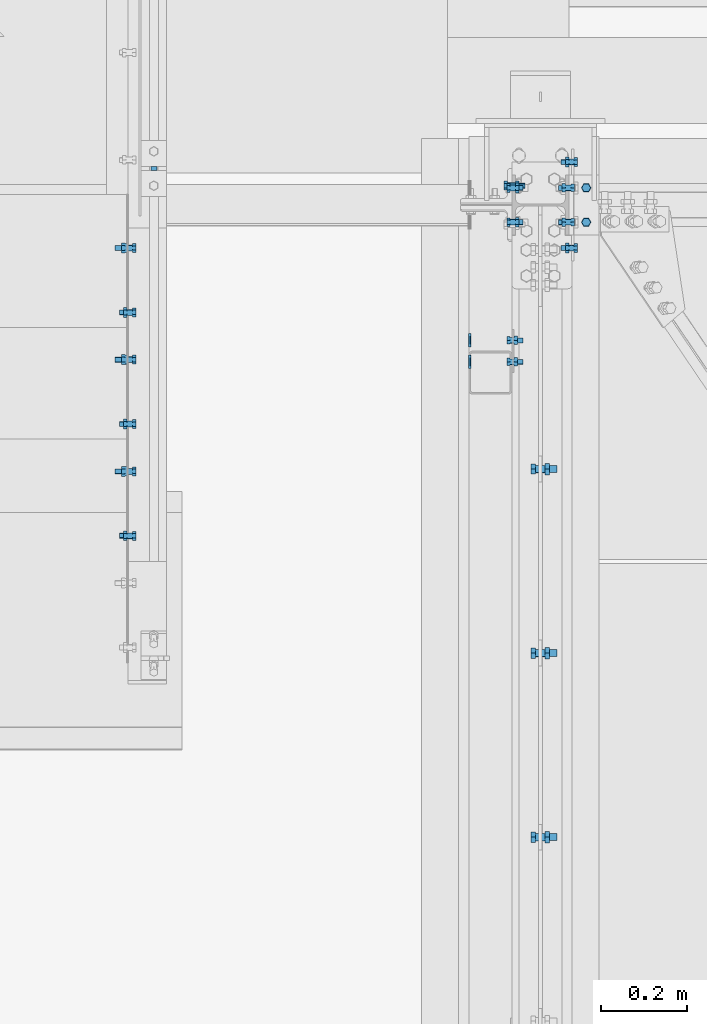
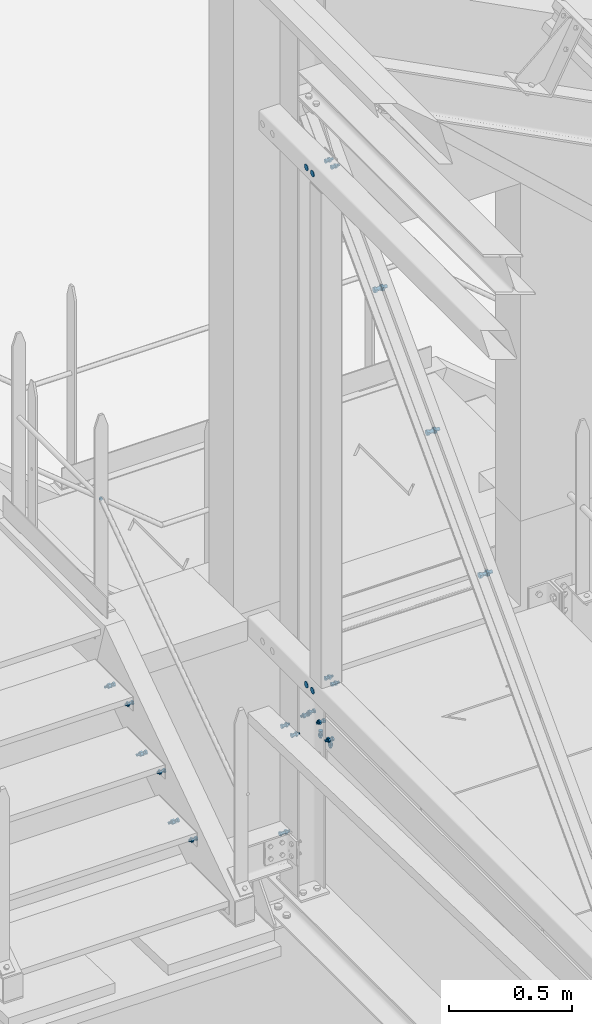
# One storey, part 288 of 362: 23 mechanical fasteners.
"""IFC2X3 building model written with IfcOpenShell, lengths in millimetres."""

from ifc_helpers import new_model, si_unit, frame, frame_2d, origin_with_axes, origin_2d_with_axis, place, context, subcontext, project, spatial, polyline, circle_curve, parameter, trimmed, segment, composite_curve, circle, outline, extrude, source, transform, mapped, material, type_object, element, save


model = new_model("IFC2X3")

# Units and contexts
model_context = context("Model", 3, precision=1e-05, world=origin_with_axes())
body_context = subcontext(model_context, "Body", "Model", "MODEL_VIEW")
ifc_project = project(units=[si_unit("LENGTHUNIT", "METRE", prefix="MILLI"), si_unit("AREAUNIT", "SQUARE_METRE"), si_unit("VOLUMEUNIT", "CUBIC_METRE"), si_unit("MASSUNIT", "GRAM", prefix="KILO"), si_unit("TIMEUNIT", "SECOND"), si_unit("PLANEANGLEUNIT", "RADIAN"), si_unit("SOLIDANGLEUNIT", "STERADIAN"), si_unit("THERMODYNAMICTEMPERATUREUNIT", "DEGREE_CELSIUS"), si_unit("LUMINOUSINTENSITYUNIT", "LUMEN")], contexts=[model_context])

# Site, building, storey
site_placement = place(None, origin_with_axes())
site = spatial("IfcSite", under=ifc_project, at=site_placement, Name="Undefined", CompositionType="ELEMENT")
building_placement = place(site_placement, origin_with_axes())
building = spatial("IfcBuilding", under=site, at=building_placement, Name="Undefined", CompositionType="ELEMENT")
storey_placement = place(building_placement, origin_with_axes())
storey = spatial("IfcBuildingStorey", under=building, at=storey_placement, Name="Undefined", CompositionType="ELEMENT", Elevation=0.0)

# Mechanical fasteners
ifc_material_1 = material(Name="6.8")
mechanical_fastener_type = type_object("IfcMechanicalFastenerType", Name="Bolt assembly")
shared_shape_1 = source(origin_with_axes(), body_context, "Body", "SweptSolid", [
    extrude(circle(Radius=7.0, at=origin_2d_with_axis()), frame((0.0, 6.26397177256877e-05, 0.0), z_axis=(0.0, 1.0, 0.0), x_axis=(1.0, 0.0, 0.0)), (0.0, 0.0, 1.0), 10.1),
])
mechanical_fastener_1_placement = place(storey_placement, frame((22569.9936634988, 15290.0038659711, 9438.8), z_axis=(0.0, 0.0, 1.0), x_axis=(-1.0, 0.0, 0.0)))
element("IfcMechanicalFastener", 1, at=mechanical_fastener_1_placement, inside=storey, type_object=mechanical_fastener_type, material=ifc_material_1, Name="Bolt assembly", NominalDiameter=12.0, NominalLength=10.0, context=body_context, shape_type="MappedRepresentation", body=[
    mapped(shared_shape_1, transform((0.0, 0.0, 0.0))),
])
ifc_material_2 = material(Name="8.8-SB-GALVA")
shared_shape_2 = source(origin_with_axes(), body_context, "Body", "SweptSolid", [
    extrude(circle(Radius=7.0, at=origin_2d_with_axis()), frame((0.0, -9.90049171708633, 0.0), z_axis=(0.0, 1.0, 0.0), x_axis=(1.0, 0.0, 0.0)), (0.0, 0.0, 1.0), 10.0),
    extrude(circle(Radius=7.0, at=origin_2d_with_axis()), frame((0.0, -0.100011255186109, 0.0), z_axis=(0.0, 1.0, 0.0), x_axis=(1.0, 0.0, 0.0)), (0.0, 0.0, 1.0), 3.1),
    extrude(outline(polyline([(10.39230484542, 0.0), (5.19615242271, 9.00000000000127), (-5.19615242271, 9.00000000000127), (-10.39230484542, 0.0), (-5.19615242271, -9.00000000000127), (5.19615242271, -9.00000000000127), (10.39230484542, 0.0)])), frame((0.0, -17.9204917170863, 0.0), z_axis=(0.0, 1.0, 0.0), x_axis=(1.0, 0.0, 0.0)), (0.0, 0.0, 1.0), 7.92),
    extrude(circle(Radius=6.0, at=origin_2d_with_axis()), frame((0.0, -10.0004917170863, 0.0), z_axis=(0.0, 1.0, 0.0), x_axis=(1.0, 0.0, 0.0)), (0.0, 0.0, 1.0), 30.0),
    extrude(outline(polyline([(11.5008173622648, 0.0), (5.7504086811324, 9.96000000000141), (-5.7504086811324, 9.96000000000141), (-11.5008173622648, 0.0), (-5.7504086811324, -9.96000000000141), (5.7504086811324, -9.96000000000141), (11.5008173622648, 0.0)])), frame((0.0, 3.00000067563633, 0.0), z_axis=(0.0, 1.0, 0.0), x_axis=(1.0, 0.0, 0.0)), (0.0, 0.0, 1.0), 7.92),
])
mechanical_fastener_2_placement = place(storey_placement, frame((22509.9947340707, 14949.9997910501, 8645.0), z_axis=(0.0, 0.0, 1.0), x_axis=(0.0, 1.0, 0.0)))
element("IfcMechanicalFastener", 2, at=mechanical_fastener_2_placement, inside=storey, type_object=mechanical_fastener_type, material=ifc_material_2, Name="Bolt assembly", NominalDiameter=12.0, NominalLength=30.0, context=body_context, shape_type="MappedRepresentation", body=[
    mapped(shared_shape_2, transform((0.0, 0.0, 0.0))),
])
shared_shape_3 = source(origin_with_axes(), body_context, "Body", "SweptSolid", [
    extrude(circle(Radius=7.0, at=origin_2d_with_axis()), frame((0.0, -9.89994875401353, 0.0), z_axis=(0.0, 1.0, 0.0), x_axis=(1.0, 0.0, 0.0)), (0.0, 0.0, 1.0), 10.0),
    extrude(circle(Radius=7.0, at=origin_2d_with_axis()), frame((0.0, -0.100011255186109, 0.0), z_axis=(0.0, 1.0, 0.0), x_axis=(1.0, 0.0, 0.0)), (0.0, 0.0, 1.0), 3.1),
    extrude(outline(polyline([(10.39230484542, 0.0), (5.19615242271, 9.00000000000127), (-5.19615242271, 9.00000000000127), (-10.39230484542, 0.0), (-5.19615242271, -9.00000000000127), (5.19615242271, -9.00000000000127), (10.39230484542, 0.0)])), frame((0.0, -17.9199487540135, 0.0), z_axis=(0.0, 1.0, 0.0), x_axis=(1.0, 0.0, 0.0)), (0.0, 0.0, 1.0), 7.92),
    extrude(circle(Radius=6.0, at=origin_2d_with_axis()), frame((0.0, -9.99994875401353, 0.0), z_axis=(0.0, 1.0, 0.0), x_axis=(1.0, 0.0, 0.0)), (0.0, 0.0, 1.0), 30.0),
    extrude(outline(polyline([(11.5008173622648, 0.0), (5.7504086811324, 9.96000000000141), (-5.7504086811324, 9.96000000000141), (-11.5008173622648, 0.0), (-5.7504086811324, -9.96000000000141), (5.7504086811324, -9.96000000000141), (11.5008173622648, 0.0)])), frame((0.0, 3.00000067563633, 0.0), z_axis=(0.0, 1.0, 0.0), x_axis=(1.0, 0.0, 0.0)), (0.0, 0.0, 1.0), 7.92),
])
mechanical_fastener_3_placement = place(storey_placement, frame((22509.9947340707, 14689.9997910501, 8465.00000004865), z_axis=(0.0, 0.0, 1.0), x_axis=(0.0, 1.0, 0.0)))
element("IfcMechanicalFastener", 3, at=mechanical_fastener_3_placement, inside=storey, type_object=mechanical_fastener_type, material=ifc_material_2, Name="Bolt assembly", NominalDiameter=12.0, NominalLength=30.0, context=body_context, shape_type="MappedRepresentation", body=[
    mapped(shared_shape_3, transform((0.0, 0.0, 0.0))),
])
shared_shape_4 = source(origin_with_axes(), body_context, "Body", "SweptSolid", [
    extrude(circle(Radius=7.0, at=origin_2d_with_axis()), frame((0.0, -9.89940579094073, 0.0), z_axis=(0.0, 1.0, 0.0), x_axis=(1.0, 0.0, 0.0)), (0.0, 0.0, 1.0), 10.0),
    extrude(circle(Radius=7.0, at=origin_2d_with_axis()), frame((0.0, -0.100011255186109, 0.0), z_axis=(0.0, 1.0, 0.0), x_axis=(1.0, 0.0, 0.0)), (0.0, 0.0, 1.0), 3.1),
    extrude(outline(polyline([(10.39230484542, 0.0), (5.19615242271, 9.00000000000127), (-5.19615242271, 9.00000000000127), (-10.39230484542, 0.0), (-5.19615242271, -9.00000000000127), (5.19615242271, -9.00000000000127), (10.39230484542, 0.0)])), frame((0.0, -17.9194057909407, 0.0), z_axis=(0.0, 1.0, 0.0), x_axis=(1.0, 0.0, 0.0)), (0.0, 0.0, 1.0), 7.92),
    extrude(circle(Radius=6.0, at=origin_2d_with_axis()), frame((0.0, -9.99940579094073, 0.0), z_axis=(0.0, 1.0, 0.0), x_axis=(1.0, 0.0, 0.0)), (0.0, 0.0, 1.0), 30.0),
    extrude(outline(polyline([(11.5008173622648, 0.0), (5.7504086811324, 9.96000000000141), (-5.7504086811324, 9.96000000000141), (-11.5008173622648, 0.0), (-5.7504086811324, -9.96000000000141), (5.7504086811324, -9.96000000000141), (11.5008173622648, 0.0)])), frame((0.0, 3.00000067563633, 0.0), z_axis=(0.0, 1.0, 0.0), x_axis=(1.0, 0.0, 0.0)), (0.0, 0.0, 1.0), 7.92),
])
mechanical_fastener_4_placement = place(storey_placement, frame((22509.9947340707, 14429.9997910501, 8285.00000007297), z_axis=(0.0, 0.0, 1.0), x_axis=(0.0, 1.0, 0.0)))
element("IfcMechanicalFastener", 4, at=mechanical_fastener_4_placement, inside=storey, type_object=mechanical_fastener_type, material=ifc_material_2, Name="Bolt assembly", NominalDiameter=12.0, NominalLength=30.0, context=body_context, shape_type="MappedRepresentation", body=[
    mapped(shared_shape_4, transform((0.0, 0.0, 0.0))),
])
shared_shape_5 = source(origin_with_axes(), body_context, "Body", "SweptSolid", [
    extrude(circle(Radius=7.0, at=origin_2d_with_axis()), frame((0.0, -9.90049171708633, 0.0), z_axis=(0.0, 1.0, 0.0), x_axis=(1.0, 0.0, 0.0)), (0.0, 0.0, 1.0), 10.0),
    extrude(outline(composite_curve([segment(polyline([(-7.0, 7.0), (7.0, 7.0)]), True, "CONTINUOUS"), segment(trimmed(circle_curve(frame_2d((7.0, 0.0), x_axis=(0.0, 1.0)), 7.0), [parameter(0.0)], [parameter(3.14159265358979)], False, "PARAMETER"), True, "CONTINUOUS"), segment(polyline([(7.0, -7.0), (-7.0, -7.0)]), True, "CONTINUOUS"), segment(trimmed(circle_curve(frame_2d((-7.0, 0.0), x_axis=(0.0, -1.0)), 7.0), [parameter(0.0)], [parameter(3.14159265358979)], False, "PARAMETER"), True, "DISCONTINUOUS")], self_intersect=False)), frame((0.0, -0.100011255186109, 0.0), z_axis=(0.0, 1.0, 0.0), x_axis=(1.0, 0.0, 0.0)), (0.0, 0.0, 1.0), 3.1),
    extrude(outline(polyline([(10.39230484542, 0.0), (5.19615242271, 9.00000000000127), (-5.19615242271, 9.00000000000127), (-10.39230484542, 0.0), (-5.19615242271, -9.00000000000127), (5.19615242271, -9.00000000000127), (10.39230484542, 0.0)])), frame((0.0, -17.9204917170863, 0.0), z_axis=(0.0, 1.0, 0.0), x_axis=(1.0, 0.0, 0.0)), (0.0, 0.0, 1.0), 7.92),
    extrude(circle(Radius=6.0, at=origin_2d_with_axis()), frame((0.0, -10.0004917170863, 0.0), z_axis=(0.0, 1.0, 0.0), x_axis=(1.0, 0.0, 0.0)), (0.0, 0.0, 1.0), 40.0),
    extrude(circle(Radius=10.8, at=origin_2d_with_axis()), frame((0.0, 3.00000067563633, 0.0), z_axis=(0.0, 1.0, 0.0), x_axis=(1.0, 0.0, 0.0)), (0.0, 0.0, 1.0), 3.96),
    extrude(outline(polyline([(11.5008173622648, 0.0), (5.7504086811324, 9.96000000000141), (-5.7504086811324, 9.96000000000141), (-11.5008173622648, 0.0), (-5.7504086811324, -9.96000000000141), (5.7504086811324, -9.96000000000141), (11.5008173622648, 0.0)])), frame((0.0, 6.96, 0.0), z_axis=(0.0, 1.0, 0.0), x_axis=(1.0, 0.0, 0.0)), (0.0, 0.0, 1.0), 7.92),
])
mechanical_fastener_5_placement = place(storey_placement, frame((22509.9947340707, 15099.9997910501, 8645.0), z_axis=(0.0, 0.0, 1.0), x_axis=(0.0, 1.0, 0.0)))
element("IfcMechanicalFastener", 5, at=mechanical_fastener_5_placement, inside=storey, type_object=mechanical_fastener_type, material=ifc_material_2, Name="Bolt assembly", NominalDiameter=12.0, NominalLength=40.0, context=body_context, shape_type="MappedRepresentation", body=[
    mapped(shared_shape_5, transform((0.0, 0.0, 0.0))),
])
shared_shape_6 = source(origin_with_axes(), body_context, "Body", "SweptSolid", [
    extrude(circle(Radius=7.0, at=origin_2d_with_axis()), frame((0.0, -9.9, 0.0), z_axis=(0.0, 1.0, 0.0), x_axis=(1.0, 0.0, 0.0)), (0.0, 0.0, 1.0), 10.0),
    extrude(outline(composite_curve([segment(polyline([(-7.0, 7.0), (7.0, 7.0)]), True, "CONTINUOUS"), segment(trimmed(circle_curve(frame_2d((7.0, 0.0), x_axis=(0.0, 1.0)), 7.0), [parameter(0.0)], [parameter(3.14159265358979)], False, "PARAMETER"), True, "CONTINUOUS"), segment(polyline([(7.0, -7.0), (-7.0, -7.0)]), True, "CONTINUOUS"), segment(trimmed(circle_curve(frame_2d((-7.0, 0.0), x_axis=(0.0, -1.0)), 7.0), [parameter(0.0)], [parameter(3.14159265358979)], False, "PARAMETER"), True, "DISCONTINUOUS")], self_intersect=False)), frame((0.0, -0.100011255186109, 0.0), z_axis=(0.0, 1.0, 0.0), x_axis=(1.0, 0.0, 0.0)), (0.0, 0.0, 1.0), 3.1),
    extrude(outline(polyline([(10.39230484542, 0.0), (5.19615242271, 9.00000000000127), (-5.19615242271, 9.00000000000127), (-10.39230484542, 0.0), (-5.19615242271, -9.00000000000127), (5.19615242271, -9.00000000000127), (10.39230484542, 0.0)])), frame((0.0, -17.92, 0.0), z_axis=(0.0, 1.0, 0.0), x_axis=(1.0, 0.0, 0.0)), (0.0, 0.0, 1.0), 7.92),
    extrude(circle(Radius=6.0, at=origin_2d_with_axis()), frame((0.0, -10.0000010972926, 0.0), z_axis=(0.0, 1.0, 0.0), x_axis=(1.0, 0.0, 0.0)), (0.0, 0.0, 1.0), 40.0),
    extrude(circle(Radius=10.8, at=origin_2d_with_axis()), frame((0.0, 3.00000067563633, 0.0), z_axis=(0.0, 1.0, 0.0), x_axis=(1.0, 0.0, 0.0)), (0.0, 0.0, 1.0), 3.96),
    extrude(outline(polyline([(11.5008173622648, 0.0), (5.7504086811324, 9.96000000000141), (-5.7504086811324, 9.96000000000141), (-11.5008173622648, 0.0), (-5.7504086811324, -9.96000000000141), (5.7504086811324, -9.96000000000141), (11.5008173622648, 0.0)])), frame((0.0, 6.96, 0.0), z_axis=(0.0, 1.0, 0.0), x_axis=(1.0, 0.0, 0.0)), (0.0, 0.0, 1.0), 7.92),
])
mechanical_fastener_6_placement = place(storey_placement, frame((22509.9947340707, 14839.9997910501, 8465.00000004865), z_axis=(0.0, 0.0, 1.0), x_axis=(0.0, 1.0, 0.0)))
element("IfcMechanicalFastener", 6, at=mechanical_fastener_6_placement, inside=storey, type_object=mechanical_fastener_type, material=ifc_material_2, Name="Bolt assembly", NominalDiameter=12.0, NominalLength=40.0, context=body_context, shape_type="MappedRepresentation", body=[
    mapped(shared_shape_6, transform((0.0, 0.0, 0.0))),
])
shared_shape_7 = source(origin_with_axes(), body_context, "Body", "SweptSolid", [
    extrude(circle(Radius=7.0, at=origin_2d_with_axis()), frame((0.0, -9.89940579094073, 0.0), z_axis=(0.0, 1.0, 0.0), x_axis=(1.0, 0.0, 0.0)), (0.0, 0.0, 1.0), 10.0),
    extrude(outline(composite_curve([segment(polyline([(-7.0, 7.0), (7.0, 7.0)]), True, "CONTINUOUS"), segment(trimmed(circle_curve(frame_2d((7.0, 0.0), x_axis=(0.0, 1.0)), 7.0), [parameter(0.0)], [parameter(3.14159265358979)], False, "PARAMETER"), True, "CONTINUOUS"), segment(polyline([(7.0, -7.0), (-7.0, -7.0)]), True, "CONTINUOUS"), segment(trimmed(circle_curve(frame_2d((-7.0, 0.0), x_axis=(0.0, -1.0)), 7.0), [parameter(0.0)], [parameter(3.14159265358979)], False, "PARAMETER"), True, "DISCONTINUOUS")], self_intersect=False)), frame((0.0, -0.100011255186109, 0.0), z_axis=(0.0, 1.0, 0.0), x_axis=(1.0, 0.0, 0.0)), (0.0, 0.0, 1.0), 3.1),
    extrude(outline(polyline([(10.39230484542, 0.0), (5.19615242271, 9.00000000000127), (-5.19615242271, 9.00000000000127), (-10.39230484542, 0.0), (-5.19615242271, -9.00000000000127), (5.19615242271, -9.00000000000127), (10.39230484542, 0.0)])), frame((0.0, -17.9194057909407, 0.0), z_axis=(0.0, 1.0, 0.0), x_axis=(1.0, 0.0, 0.0)), (0.0, 0.0, 1.0), 7.92),
    extrude(circle(Radius=6.0, at=origin_2d_with_axis()), frame((0.0, -9.99940579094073, 0.0), z_axis=(0.0, 1.0, 0.0), x_axis=(1.0, 0.0, 0.0)), (0.0, 0.0, 1.0), 40.0),
    extrude(circle(Radius=10.8, at=origin_2d_with_axis()), frame((0.0, 3.00000067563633, 0.0), z_axis=(0.0, 1.0, 0.0), x_axis=(1.0, 0.0, 0.0)), (0.0, 0.0, 1.0), 3.96),
    extrude(outline(polyline([(11.5008173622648, 0.0), (5.7504086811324, 9.96000000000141), (-5.7504086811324, 9.96000000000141), (-11.5008173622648, 0.0), (-5.7504086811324, -9.96000000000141), (5.7504086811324, -9.96000000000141), (11.5008173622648, 0.0)])), frame((0.0, 6.96, 0.0), z_axis=(0.0, 1.0, 0.0), x_axis=(1.0, 0.0, 0.0)), (0.0, 0.0, 1.0), 7.92),
])
mechanical_fastener_7_placement = place(storey_placement, frame((22509.9947340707, 14579.9997910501, 8285.00000007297), z_axis=(0.0, 0.0, 1.0), x_axis=(0.0, 1.0, 0.0)))
element("IfcMechanicalFastener", 7, at=mechanical_fastener_7_placement, inside=storey, type_object=mechanical_fastener_type, material=ifc_material_2, Name="Bolt assembly", NominalDiameter=12.0, NominalLength=40.0, context=body_context, shape_type="MappedRepresentation", body=[
    mapped(shared_shape_7, transform((0.0, 0.0, 0.0))),
])
shared_shape_8 = source(origin_with_axes(), body_context, "Body", "SweptSolid", [
    extrude(circle(Radius=15.0, at=origin_2d_with_axis()), frame((0.0, 0.0, 0.0), z_axis=(0.0, 1.0, 0.0), x_axis=(1.0, 0.0, 0.0)), (0.0, 0.0, 1.0), 4.1),
])
mechanical_fastener_8_placement = place(storey_placement, frame((23303.5000012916, 14859.9999987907, 11070.0), z_axis=(0.0, -1.0, 0.0), x_axis=(0.0, 0.0, -1.0)))
element("IfcMechanicalFastener", 8, at=mechanical_fastener_8_placement, inside=storey, type_object=mechanical_fastener_type, material=ifc_material_1, Name="Bolt assembly", NominalDiameter=30.0, NominalLength=4.0, context=body_context, shape_type="MappedRepresentation", body=[
    mapped(shared_shape_8, transform((0.0, 0.0, -25.0))),
    mapped(shared_shape_8, transform((0.0, 0.0, 25.0))),
])
ifc_material_3 = material(Name="8.8-SB-ZINGUE")
shared_shape_9 = source(origin_with_axes(), body_context, "Body", "SweptSolid", [
    extrude(circle(Radius=7.0, at=origin_2d_with_axis()), frame((0.0, -3.89999843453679, 0.0), z_axis=(0.0, 1.0, 0.0), x_axis=(1.0, 0.0, 0.0)), (0.0, 0.0, 1.0), 4.0),
    extrude(circle(Radius=7.0, at=origin_2d_with_axis()), frame((0.0, -0.100011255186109, 0.0), z_axis=(0.0, 1.0, 0.0), x_axis=(1.0, 0.0, 0.0)), (0.0, 0.0, 1.0), 5.1),
    extrude(outline(polyline([(10.39230484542, 0.0), (5.19615242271, 9.00000000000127), (-5.19615242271, 9.00000000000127), (-10.39230484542, 0.0), (-5.19615242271, -9.00000000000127), (5.19615242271, -9.00000000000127), (10.39230484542, 0.0)])), frame((0.0, -11.9199984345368, 0.0), z_axis=(0.0, 1.0, 0.0), x_axis=(1.0, 0.0, 0.0)), (0.0, 0.0, 1.0), 7.92),
    extrude(circle(Radius=6.0, at=origin_2d_with_axis()), frame((0.0, -3.99999923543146, 0.0), z_axis=(0.0, 1.0, 0.0), x_axis=(1.0, 0.0, 0.0)), (0.0, 0.0, 1.0), 30.0),
    extrude(outline(polyline([(11.5008173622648, 0.0), (5.7504086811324, 9.96000000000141), (-5.7504086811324, 9.96000000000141), (-11.5008173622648, 0.0), (-5.7504086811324, -9.96000000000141), (5.7504086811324, -9.96000000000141), (11.5008173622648, 0.0)])), frame((0.0, 5.0, 0.0), z_axis=(0.0, 1.0, 0.0), x_axis=(1.0, 0.0, 0.0)), (0.0, 0.0, 1.0), 7.92),
])
mechanical_fastener_9_placement = place(storey_placement, frame((23403.5000012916, 14859.9999987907, 11070.0), z_axis=(0.0, -1.0, 0.0), x_axis=(0.0, 0.0, -1.0)))
element("IfcMechanicalFastener", 9, at=mechanical_fastener_9_placement, inside=storey, type_object=mechanical_fastener_type, material=ifc_material_3, Name="Bolt assembly", NominalDiameter=12.0, NominalLength=30.0, context=body_context, shape_type="MappedRepresentation", body=[
    mapped(shared_shape_9, transform((0.0, 0.0, -25.0))),
    mapped(shared_shape_9, transform((0.0, 0.0, 25.0))),
])
shared_shape_10 = source(origin_with_axes(), body_context, "Body", "SweptSolid", [
    extrude(circle(Radius=9.0, at=origin_2d_with_axis()), frame((0.0, -10.9000000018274, 0.0), z_axis=(0.0, 1.0, 0.0), x_axis=(1.0, 0.0, 0.0)), (0.0, 0.0, 1.0), 6.0),
    extrude(circle(Radius=9.0, at=origin_2d_with_axis()), frame((0.0, 4.9000000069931, 0.0), z_axis=(0.0, 1.0, 0.0), x_axis=(1.0, 0.0, 0.0)), (0.0, 0.0, 1.0), 6.1),
    extrude(circle(Radius=9.0, at=origin_2d_with_axis()), frame((0.0, -3.99999923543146, 0.0), z_axis=(0.0, 1.0, 0.0), x_axis=(1.0, 0.0, 0.0)), (0.0, 0.0, 1.0), 8.0),
    extrude(outline(polyline([(13.85640646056, 0.0), (6.92820323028, 12.0000000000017), (-6.92820323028, 12.0000000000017), (-13.85640646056, 0.0), (-6.92820323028, -12.0000000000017), (6.92820323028, -12.0000000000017), (13.85640646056, 0.0)])), frame((0.0, -21.5600000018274, 0.0), z_axis=(0.0, 1.0, 0.0), x_axis=(1.0, 0.0, 0.0)), (0.0, 0.0, 1.0), 10.56),
    extrude(circle(Radius=8.0, at=origin_2d_with_axis()), frame((0.0, -11.0000000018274, 0.0), z_axis=(0.0, 1.0, 0.0), x_axis=(1.0, 0.0, 0.0)), (0.0, 0.0, 1.0), 50.0),
    extrude(outline(polyline([(15.3344231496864, 0.0), (7.6672115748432, 13.2800000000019), (-7.6672115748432, 13.2800000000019), (-15.3344231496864, 0.0), (-7.6672115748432, -13.2800000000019), (7.6672115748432, -13.2800000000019), (15.3344231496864, 0.0)])), frame((0.0, 11.0000000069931, 0.0), z_axis=(0.0, 1.0, 0.0), x_axis=(1.0, 0.0, 0.0)), (0.0, 0.0, 1.0), 10.56),
])
for number, where, z_axis, x_axis, name in (
    (10, (23470.0, 14585.2713896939, 10591.1820449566), (0.0, 1.0, 0.0), (0.0, 0.0, 1.0), "Bolt assembly"),
    (11, (23470.0, 14156.8475934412, 10141.7880296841), (0.0, 1.0, 0.0), (0.0, 0.0, 1.0), "Bolt assembly"),
    (12, (23470.0, 13728.4237971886, 9692.39401441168), (0.0, 1.0, 0.0), (0.0, 0.0, 1.0), "Bolt assembly"),
):
    element("IfcMechanicalFastener", number, at=place(storey_placement, frame(where, z_axis=z_axis, x_axis=x_axis)), inside=storey, type_object=mechanical_fastener_type, material=ifc_material_3, Name=name, NominalDiameter=16.0, NominalLength=50.0, context=body_context, shape_type="MappedRepresentation", body=[
        mapped(shared_shape_10, transform((0.0, 0.0, 0.0))),
    ])
shared_shape_11 = source(origin_with_axes(), body_context, "Body", "SweptSolid", [
    extrude(circle(Radius=7.0, at=origin_2d_with_axis()), frame((0.0, -4.90000000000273, 0.0), z_axis=(0.0, 1.0, 0.0), x_axis=(1.0, 0.0, 0.0)), (0.0, 0.0, 1.0), 5.0),
    extrude(circle(Radius=7.0, at=origin_2d_with_axis()), frame((0.0, -0.100011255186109, 0.0), z_axis=(0.0, 1.0, 0.0), x_axis=(1.0, 0.0, 0.0)), (0.0, 0.0, 1.0), 7.1),
    extrude(outline(polyline([(10.39230484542, 0.0), (5.19615242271, 9.00000000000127), (-5.19615242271, 9.00000000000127), (-10.39230484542, 0.0), (-5.19615242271, -9.00000000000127), (5.19615242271, -9.00000000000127), (10.39230484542, 0.0)])), frame((0.0, -12.9200004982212, 0.0), z_axis=(0.0, 1.0, 0.0), x_axis=(1.0, 0.0, 0.0)), (0.0, 0.0, 1.0), 7.92),
    extrude(circle(Radius=6.0, at=origin_2d_with_axis()), frame((0.0, -5.00000000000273, 0.0), z_axis=(0.0, 1.0, 0.0), x_axis=(1.0, 0.0, 0.0)), (0.0, 0.0, 1.0), 30.0),
    extrude(outline(polyline([(11.5008173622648, 0.0), (5.7504086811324, 9.96000000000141), (-5.7504086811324, 9.96000000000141), (-11.5008173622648, 0.0), (-5.7504086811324, -9.96000000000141), (5.7504086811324, -9.96000000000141), (11.5008173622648, 0.0)])), frame((0.0, 7.0, 0.0), z_axis=(0.0, 1.0, 0.0), x_axis=(1.0, 0.0, 0.0)), (0.0, 0.0, 1.0), 7.92),
])
for number, where, z_axis, x_axis, name in (
    (13, (23576.49994422, 15240.0000000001, 7949.99999999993), (0.0, -1.0, 0.0), (-1.0, 0.0, 0.0), "Bolt assembly"),
    (14, (23576.49994422, 15160.0, 7949.99999999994), (0.0, -1.0, 0.0), (-1.0, 0.0, 0.0), "Bolt assembly"),
):
    element("IfcMechanicalFastener", number, at=place(storey_placement, frame(where, z_axis=z_axis, x_axis=x_axis)), inside=storey, type_object=mechanical_fastener_type, material=ifc_material_3, Name=name, NominalDiameter=12.0, NominalLength=30.0, context=body_context, shape_type="MappedRepresentation", body=[
        mapped(shared_shape_11, transform((0.0, 0.0, 0.0))),
    ])
shared_shape_12 = source(origin_with_axes(), body_context, "Body", "SweptSolid", [
    extrude(circle(Radius=7.0, at=origin_2d_with_axis()), frame((0.0, -0.108038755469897, 0.0), z_axis=(0.0, 1.0, 0.0), x_axis=(1.0, 0.0, 0.0)), (0.0, 0.0, 1.0), 5.1),
    extrude(circle(Radius=7.0, at=origin_2d_with_axis()), frame((0.0, -6.4, 0.0), z_axis=(0.0, 1.0, 0.0), x_axis=(1.0, 0.0, 0.0)), (0.0, 0.0, 1.0), 6.0),
    extrude(outline(polyline([(10.39230484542, 0.0), (5.19615242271, 9.00000000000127), (-5.19615242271, 9.00000000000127), (-10.39230484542, 0.0), (-5.19615242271, -9.00000000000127), (5.19615242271, -9.00000000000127), (10.39230484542, 0.0)])), frame((0.0, -14.42, 0.0), z_axis=(0.0, 1.0, 0.0), x_axis=(1.0, 0.0, 0.0)), (0.0, 0.0, 1.0), 7.92),
    extrude(circle(Radius=6.0, at=origin_2d_with_axis()), frame((0.0, -6.5, 0.0), z_axis=(0.0, 1.0, 0.0), x_axis=(1.0, 0.0, 0.0)), (0.0, 0.0, 1.0), 30.0),
    extrude(outline(polyline([(11.5008173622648, 0.0), (5.7504086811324, 9.96000000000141), (-5.7504086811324, 9.96000000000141), (-11.5008173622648, 0.0), (-5.7504086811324, -9.96000000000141), (5.7504086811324, -9.96000000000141), (11.5008173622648, 0.0)])), frame((0.0, 4.99200112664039, 0.0), z_axis=(0.0, 1.0, 0.0), x_axis=(1.0, 0.0, 0.0)), (0.0, 0.0, 1.0), 7.92),
])
for number, where, z_axis, x_axis, name in (
    (15, (23541.4918295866, 15300.0000000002, 8014.99999999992), (0.0, 0.0, -1.0), (0.0, -1.0, 0.0), "Bolt assembly"),
    (16, (23541.4918295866, 15099.9999999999, 8014.99999999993), (0.0, 0.0, 1.0), (0.0, 1.0, 0.0), "Bolt assembly"),
):
    element("IfcMechanicalFastener", number, at=place(storey_placement, frame(where, z_axis=z_axis, x_axis=x_axis)), inside=storey, type_object=mechanical_fastener_type, material=ifc_material_3, Name=name, NominalDiameter=12.0, NominalLength=30.0, context=body_context, shape_type="MappedRepresentation", body=[
        mapped(shared_shape_12, transform((0.0, 0.0, 0.0))),
    ])
shared_shape_13 = source(origin_with_axes(), body_context, "Body", "SweptSolid", [
    extrude(circle(Radius=7.0, at=origin_2d_with_axis()), frame((0.0, -0.10007666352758, 0.0), z_axis=(0.0, 1.0, 0.0), x_axis=(1.0, 0.0, 0.0)), (0.0, 0.0, 1.0), 8.6),
    extrude(circle(Radius=7.0, at=origin_2d_with_axis()), frame((0.0, -4.89988938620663, 0.0), z_axis=(0.0, 1.0, 0.0), x_axis=(1.0, 0.0, 0.0)), (0.0, 0.0, 1.0), 5.0),
    extrude(outline(polyline([(10.39230484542, 0.0), (5.19615242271, 9.00000000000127), (-5.19615242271, 9.00000000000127), (-10.39230484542, 0.0), (-5.19615242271, -9.00000000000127), (5.19615242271, -9.00000000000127), (10.39230484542, 0.0)])), frame((0.0, -12.9198893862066, 0.0), z_axis=(0.0, 1.0, 0.0), x_axis=(1.0, 0.0, 0.0)), (0.0, 0.0, 1.0), 7.92),
    extrude(circle(Radius=6.0, at=origin_2d_with_axis()), frame((0.0, -4.99988938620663, 0.0), z_axis=(0.0, 1.0, 0.0), x_axis=(1.0, 0.0, 0.0)), (0.0, 0.0, 1.0), 30.0),
    extrude(outline(polyline([(11.5008173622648, 0.0), (5.7504086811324, 9.96000000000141), (-5.7504086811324, 9.96000000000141), (-11.5008173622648, 0.0), (-5.7504086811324, -9.96000000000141), (5.7504086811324, -9.96000000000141), (11.5008173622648, 0.0)])), frame((0.0, 8.49994421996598, 0.0), z_axis=(0.0, 1.0, 0.0), x_axis=(1.0, 0.0, 0.0)), (0.0, 0.0, 1.0), 7.92),
])
for number, where, z_axis, x_axis, name in (
    (17, (23536.49994422, 15160.0000009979, 8069.99999999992), (0.0, 1.0, 0.0), (0.0, 0.0, -1.0), "Bolt assembly"),
    (18, (23536.49994422, 15240.000000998, 8069.99999999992), (0.0, 1.0, 0.0), (0.0, 0.0, -1.0), "Bolt assembly"),
):
    element("IfcMechanicalFastener", number, at=place(storey_placement, frame(where, z_axis=z_axis, x_axis=x_axis)), inside=storey, type_object=mechanical_fastener_type, material=ifc_material_3, Name=name, NominalDiameter=12.0, NominalLength=30.0, context=body_context, shape_type="MappedRepresentation", body=[
        mapped(shared_shape_13, transform((0.0, 0.0, 0.0))),
    ])
shared_shape_14 = source(origin_with_axes(), body_context, "Body", "SweptSolid", [
    extrude(circle(Radius=15.0, at=origin_2d_with_axis()), frame((0.0, -0.000130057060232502, 0.0), z_axis=(0.0, 1.0, 0.0), x_axis=(1.0, 0.0, 0.0)), (0.0, 0.0, 1.0), 4.1),
])
mechanical_fastener_10_placement = place(storey_placement, frame((23303.5001162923, 14859.9999987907, 8500.0), z_axis=(0.0, 1.0, 0.0), x_axis=(0.0, 0.0, 1.0)))
element("IfcMechanicalFastener", 19, at=mechanical_fastener_10_placement, inside=storey, type_object=mechanical_fastener_type, material=ifc_material_1, Name="Bolt assembly", NominalDiameter=30.0, NominalLength=4.0, context=body_context, shape_type="MappedRepresentation", body=[
    mapped(shared_shape_14, transform((0.0, 0.0, -25.0))),
    mapped(shared_shape_14, transform((0.0, 0.0, 25.0))),
])
shared_shape_15 = source(origin_with_axes(), body_context, "Body", "SweptSolid", [
    extrude(circle(Radius=7.0, at=origin_2d_with_axis()), frame((0.0, -0.10007666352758, 0.0), z_axis=(0.0, 1.0, 0.0), x_axis=(1.0, 0.0, 0.0)), (0.0, 0.0, 1.0), 8.6),
    extrude(circle(Radius=7.0, at=origin_2d_with_axis()), frame((0.0, -3.89999843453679, 0.0), z_axis=(0.0, 1.0, 0.0), x_axis=(1.0, 0.0, 0.0)), (0.0, 0.0, 1.0), 4.0),
    extrude(outline(polyline([(10.39230484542, 0.0), (5.19615242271, 9.00000000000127), (-5.19615242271, 9.00000000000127), (-10.39230484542, 0.0), (-5.19615242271, -9.00000000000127), (5.19615242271, -9.00000000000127), (10.39230484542, 0.0)])), frame((0.0, -11.9199984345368, 0.0), z_axis=(0.0, 1.0, 0.0), x_axis=(1.0, 0.0, 0.0)), (0.0, 0.0, 1.0), 7.92),
    extrude(circle(Radius=6.0, at=origin_2d_with_axis()), frame((0.0, -3.99999923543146, 0.0), z_axis=(0.0, 1.0, 0.0), x_axis=(1.0, 0.0, 0.0)), (0.0, 0.0, 1.0), 30.0),
    extrude(outline(polyline([(11.5008173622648, 0.0), (5.7504086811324, 9.96000000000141), (-5.7504086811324, 9.96000000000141), (-11.5008173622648, 0.0), (-5.7504086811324, -9.96000000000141), (5.7504086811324, -9.96000000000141), (11.5008173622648, 0.0)])), frame((0.0, 8.49988372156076, 0.0), z_axis=(0.0, 1.0, 0.0), x_axis=(1.0, 0.0, 0.0)), (0.0, 0.0, 1.0), 7.92),
])
for number, where, z_axis, x_axis, name in (
    (20, (23403.5001162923, 15240.0, 8046.29862932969), (0.0, 0.0, -1.0), (0.0, 1.0, 0.0), "Bolt assembly"),
    (21, (23403.5001162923, 15160.0, 8048.81295509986), (0.0, 0.0, 1.0), (0.0, -1.0, 0.0), "Bolt assembly"),
):
    element("IfcMechanicalFastener", number, at=place(storey_placement, frame(where, z_axis=z_axis, x_axis=x_axis)), inside=storey, type_object=mechanical_fastener_type, material=ifc_material_3, Name=name, NominalDiameter=12.0, NominalLength=30.0, context=body_context, shape_type="MappedRepresentation", body=[
        mapped(shared_shape_15, transform((0.0, 0.0, 0.0))),
    ])
shared_shape_16 = source(origin_with_axes(), body_context, "Body", "SweptSolid", [
    extrude(circle(Radius=7.0, at=origin_2d_with_axis()), frame((0.0, -3.90012822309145, 0.0), z_axis=(0.0, 1.0, 0.0), x_axis=(1.0, 0.0, 0.0)), (0.0, 0.0, 1.0), 4.0),
    extrude(circle(Radius=7.0, at=origin_2d_with_axis()), frame((0.0, -0.10007666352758, 0.0), z_axis=(0.0, 1.0, 0.0), x_axis=(1.0, 0.0, 0.0)), (0.0, 0.0, 1.0), 5.1),
    extrude(outline(polyline([(10.39230484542, 0.0), (5.19615242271, 9.00000000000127), (-5.19615242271, 9.00000000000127), (-10.39230484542, 0.0), (-5.19615242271, -9.00000000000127), (5.19615242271, -9.00000000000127), (10.39230484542, 0.0)])), frame((0.0, -11.9201282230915, 0.0), z_axis=(0.0, 1.0, 0.0), x_axis=(1.0, 0.0, 0.0)), (0.0, 0.0, 1.0), 7.92),
    extrude(circle(Radius=6.0, at=origin_2d_with_axis()), frame((0.0, -4.00012822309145, 0.0), z_axis=(0.0, 1.0, 0.0), x_axis=(1.0, 0.0, 0.0)), (0.0, 0.0, 1.0), 30.0),
    extrude(outline(polyline([(11.5008173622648, 0.0), (5.7504086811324, 9.96000000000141), (-5.7504086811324, 9.96000000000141), (-11.5008173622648, 0.0), (-5.7504086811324, -9.96000000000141), (5.7504086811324, -9.96000000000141), (11.5008173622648, 0.0)])), frame((0.0, 4.99988368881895, 0.0), z_axis=(0.0, 1.0, 0.0), x_axis=(1.0, 0.0, 0.0)), (0.0, 0.0, 1.0), 7.92),
])
mechanical_fastener_11_placement = place(storey_placement, frame((23403.5001162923, 14859.9999987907, 8500.0), z_axis=(0.0, 1.0, 0.0), x_axis=(0.0, 0.0, 1.0)))
element("IfcMechanicalFastener", 22, at=mechanical_fastener_11_placement, inside=storey, type_object=mechanical_fastener_type, material=ifc_material_3, Name="Bolt assembly", NominalDiameter=12.0, NominalLength=30.0, context=body_context, shape_type="MappedRepresentation", body=[
    mapped(shared_shape_16, transform((0.0, 0.0, -25.0))),
    mapped(shared_shape_16, transform((0.0, 0.0, 25.0))),
])
shared_shape_17 = source(origin_with_axes(), body_context, "Body", "SweptSolid", [
    extrude(circle(Radius=7.0, at=origin_2d_with_axis()), frame((0.0, -0.100011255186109, 0.0), z_axis=(0.0, 1.0, 0.0), x_axis=(1.0, 0.0, 0.0)), (0.0, 0.0, 1.0), 8.6),
    extrude(circle(Radius=7.0, at=origin_2d_with_axis()), frame((0.0, -9.9, 0.0), z_axis=(0.0, 1.0, 0.0), x_axis=(1.0, 0.0, 0.0)), (0.0, 0.0, 1.0), 10.0),
    extrude(outline(polyline([(10.39230484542, 0.0), (5.19615242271, 9.00000000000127), (-5.19615242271, 9.00000000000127), (-10.39230484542, 0.0), (-5.19615242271, -9.00000000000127), (5.19615242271, -9.00000000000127), (10.39230484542, 0.0)])), frame((0.0, -17.92, 0.0), z_axis=(0.0, 1.0, 0.0), x_axis=(1.0, 0.0, 0.0)), (0.0, 0.0, 1.0), 7.92),
    extrude(circle(Radius=6.0, at=origin_2d_with_axis()), frame((0.0, -10.0000010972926, 0.0), z_axis=(0.0, 1.0, 0.0), x_axis=(1.0, 0.0, 0.0)), (0.0, 0.0, 1.0), 40.0),
    extrude(outline(polyline([(11.5008173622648, 0.0), (5.7504086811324, 9.96000000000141), (-5.7504086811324, 9.96000000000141), (-11.5008173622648, 0.0), (-5.7504086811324, -9.96000000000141), (5.7504086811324, -9.96000000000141), (11.5008173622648, 0.0)])), frame((0.0, 8.49999994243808, 0.0), z_axis=(0.0, 1.0, 0.0), x_axis=(1.0, 0.0, 0.0)), (0.0, 0.0, 1.0), 7.92),
])
mechanical_fastener_12_placement = place(storey_placement, frame((23403.5000013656, 15245.0000542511, 7510.8768648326), z_axis=(0.0, 0.0, -1.0), x_axis=(0.0, 1.0, 0.0)))
element("IfcMechanicalFastener", 23, at=mechanical_fastener_12_placement, inside=storey, type_object=mechanical_fastener_type, material=ifc_material_3, Name="Bolt assembly", NominalDiameter=12.0, NominalLength=40.0, context=body_context, shape_type="MappedRepresentation", body=[
    mapped(shared_shape_17, transform((0.0, 0.0, 0.0))),
])

save(model, "model.ifc")
